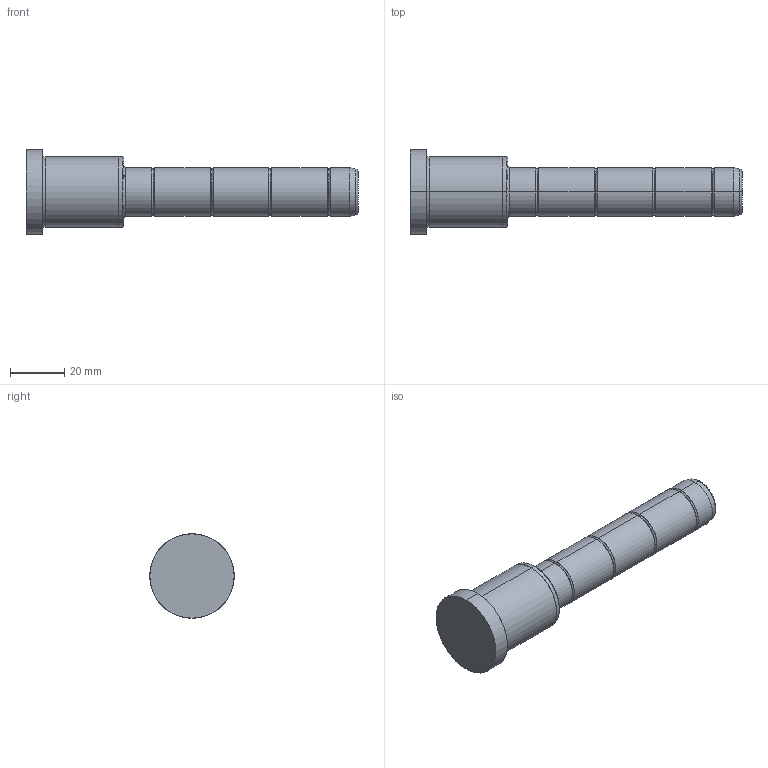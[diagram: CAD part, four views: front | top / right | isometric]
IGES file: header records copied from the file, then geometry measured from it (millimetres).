
Start section: SolidWorks IGES file using analytic representation for surfaces
Global section: file name: C:\Documents and Settings\kalite-mail\Desktop\IGS\D02\18\D02 - 18x36x86.IGS; native system: SolidWorks 2008; preprocessor: SolidWorks 2008; author: kalite-mail; date: 080616.150823; units: millimetre
Bounding box: 122 x 31 x 31 mm (x, y, z)
Surface area: 9433.9 mm2 (no closed solid volume)
Topology: 0 solids, 0 shells, 48 faces, 552 edges, 552 vertices
Faces by surface type: bspline 26, revolution 22
